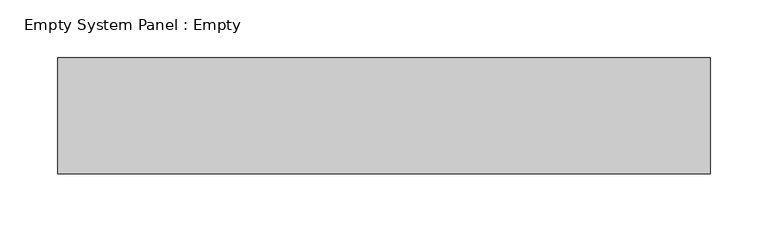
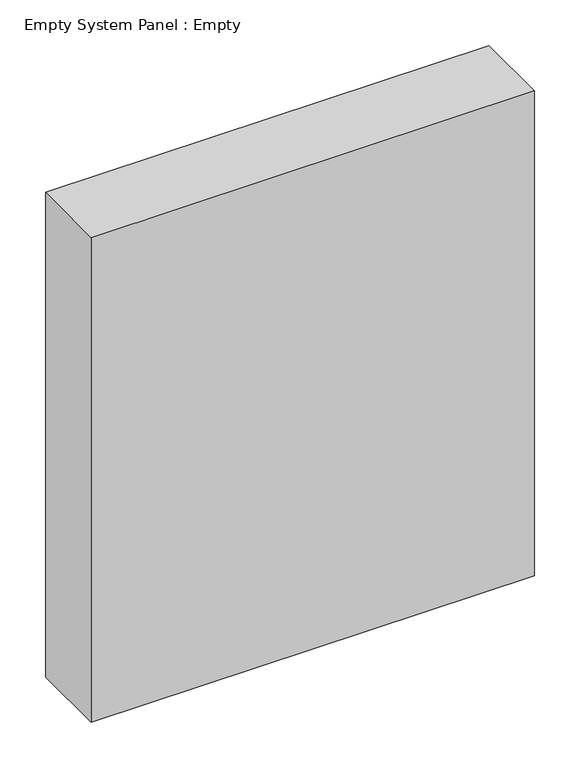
"""IFC4 building model written with IfcOpenShell, lengths in millimetres: plate geometry, Empty System Panel : Empty."""

from ifc_helpers import new_model, si_unit, origin, origin_with_axes, place, context, project, spatial, polyline, outline, extrude, source, transform, mapped, element, save


def empty_system_panel_empty_4e5cc90e(model_context):
    return source(origin(), model_context, "Body", "SweptSolid", [
        extrude(outline(polyline([(281.25, -50.0), (-281.25, -50.0), (-281.25, 50.0), (281.25, 50.0), (281.25, -50.0)])), origin_with_axes(), (0.0, 0.0, 1.0), 650.0),
    ])


if __name__ == "__main__":
    model = new_model("IFC4")
    model_context = context("Model", 3, world=origin())
    ifc_project = project(units=[si_unit("LENGTHUNIT", "METRE", prefix="MILLI")], contexts=[model_context])
    site = spatial("IfcSite", under=ifc_project)
    building = spatial("IfcBuilding", under=site)
    placement = place(None, origin())
    empty_system_panel_empty_shape = empty_system_panel_empty_4e5cc90e(model_context)
    element("IfcPlate", 1, ObjectType="Empty System Panel : Empty", at=placement, inside=building, context=model_context, shape_type="MappedRepresentation", body=[
        mapped(empty_system_panel_empty_shape, transform((0.0, 0.0, 0.0), x_axis=(1.0, 0.0, 0.0), y_axis=(0.0, 1.0, 0.0), z_axis=(0.0, 0.0, 1.0))),
    ])
    save(model, "model.ifc")
